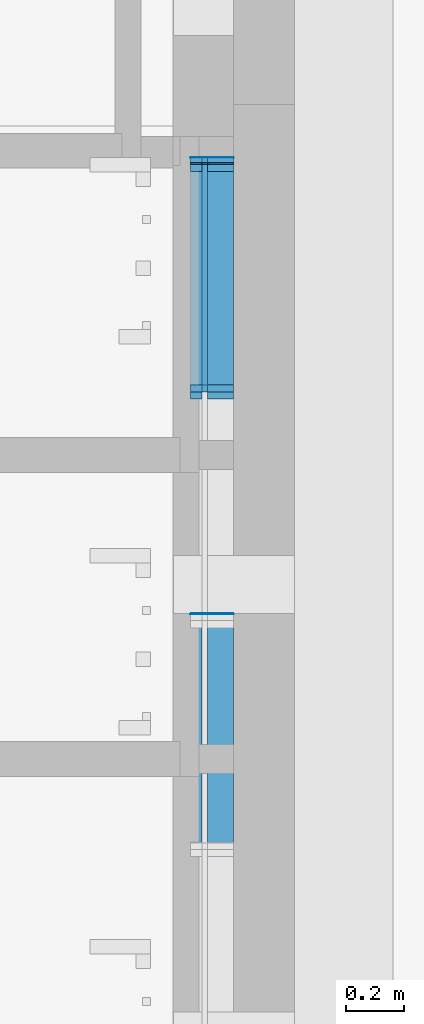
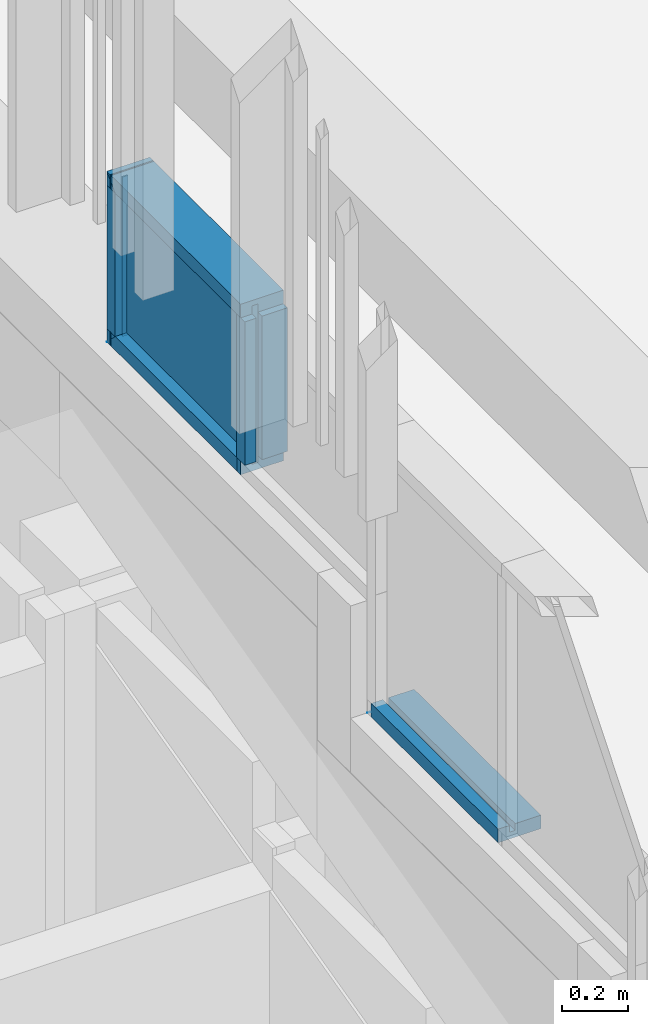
# One storey, part 62 of 390: 15 discrete accessories, 1 element without a shape of its own.
"""IFC2X3 building model written with IfcOpenShell, lengths in millimetres."""

from ifc_helpers import new_model, entity, si_unit, converted_unit, derived_unit, money_unit, direction, frame, origin_with_axes, place, context, subcontext, project, spatial, polyline, outline, extrude, clip, halfspace, material, material_list, type_object, element, aggregate, save


model = new_model("IFC2X3")

# Units and contexts
model_context = context("Model", 3, precision=1e-05, world=origin_with_axes(), true_north=direction((0.0, 1.0)))
body_context = subcontext(model_context, "Body", "Model", "MODEL_VIEW")
ifc_project = project(units=[si_unit("LENGTHUNIT", "METRE", prefix="MILLI"), si_unit("AREAUNIT", "SQUARE_METRE"), si_unit("VOLUMEUNIT", "CUBIC_METRE"), converted_unit("PLANEANGLEUNIT", "DEGREE", entity("IfcPlaneAngleMeasure", 0.0174532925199), si_unit("PLANEANGLEUNIT", "RADIAN"), dimensions=[0, 0, 0, 0, 0, 0, 0]), si_unit("SOLIDANGLEUNIT", "STERADIAN"), money_unit("EUR"), converted_unit("TIMEUNIT", "Year", entity("IfcTimeMeasure", 31556926.0), si_unit("TIMEUNIT", "SECOND"), dimensions=[0, 0, 1, 0, 0, 0, 0]), si_unit("MASSUNIT", "GRAM", prefix="KILO"), si_unit("THERMODYNAMICTEMPERATUREUNIT", "DEGREE_CELSIUS"), si_unit("LUMINOUSINTENSITYUNIT", "LUMEN"), si_unit("ENERGYUNIT", "JOULE", prefix="MEGA"), derived_unit("THERMALCONDUCTANCEUNIT", [(si_unit("POWERUNIT", "WATT"), 1), (si_unit("LENGTHUNIT", "METRE"), -1), (si_unit("THERMODYNAMICTEMPERATUREUNIT", "KELVIN"), -1)]), derived_unit("SPECIFICHEATCAPACITYUNIT", [(si_unit("ENERGYUNIT", "JOULE"), 1), (si_unit("MASSUNIT", "GRAM", prefix="KILO"), -1), (si_unit("THERMODYNAMICTEMPERATUREUNIT", "KELVIN"), -1)]), derived_unit("MASSDENSITYUNIT", [(si_unit("MASSUNIT", "GRAM", prefix="KILO"), 1), (si_unit("VOLUMEUNIT", "CUBIC_METRE"), -1)])], contexts=[model_context])

# Site, building, storey
site_placement = place(None, origin_with_axes())
site = spatial("IfcSite", under=ifc_project, at=site_placement, Name="Site", CompositionType="ELEMENT")
building_placement = place(site_placement, origin_with_axes())
building = spatial("IfcBuilding", under=site, at=building_placement, Name="Building", CompositionType="ELEMENT")
storey_placement = place(building_placement, origin_with_axes())
storey = spatial("IfcBuildingStorey", under=building, at=storey_placement, Name="1 korrus", CompositionType="ELEMENT", Elevation=0.0)

# Curtain wall, discrete accessories
curtain_wall_type = type_object("IfcCurtainWallType", Name="KLF-14", PredefinedType="NOTDEFINED")
curtain_wall_placement = place(storey_placement, frame((122599.999993, 59672.5295083, -0.000201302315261), z_axis=(0.0, 0.0, 1.0), x_axis=(1.0, 0.0, 0.0)))
curtain_wall = element("IfcCurtainWall", 1, at=curtain_wall_placement, inside=storey, type_object=curtain_wall_type, Name="Klaasfassaad")
ifc_material_1 = material(Name="Klaas")
discrete_accessory_type_1 = type_object("IfcDiscreteAccessoryType", Name="Distinct Panel 785 x 590 x 20")
discrete_accessory_1_placement = place(curtain_wall_placement, frame((-6.84792667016e-07, 4023.98422082, 4047.00000441), z_axis=(0.0, 0.0, 1.0), x_axis=(1.70170488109e-10, -1.0, 0.0)))
discrete_accessory_1 = element("IfcDiscreteAccessory", 2, at=discrete_accessory_1_placement, type_object=discrete_accessory_type_1, material=ifc_material_1, Name="KLF-14 klaaspakett", context=body_context, shape_type="SweptSolid", body=[
    extrude(outline(polyline([(-466.486277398, -357.999864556), (318.513733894, -357.999864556), (318.513733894, 231.99993721), (-466.486277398, 231.999901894), (-466.486277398, -357.999864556)])), frame((0.0, -10.0, 0.0), z_axis=(0.0, 1.0, 0.0), x_axis=(1.0, 0.0, 0.0)), (0.0, 0.0, 1.0), 20.0),
])
discrete_accessory_type_2 = type_object("IfcDiscreteAccessoryType", Name="Distinct Panel 5 x 590 x 20")
discrete_accessory_2_placement = place(curtain_wall_placement, frame((-7.66192442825e-07, 4502.32756236, 4064.99996958), z_axis=(0.0, 0.0, 1.0), x_axis=(1.70170488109e-10, -1.0, 0.0)))
discrete_accessory_2 = element("IfcDiscreteAccessory", 3, at=discrete_accessory_2_placement, type_object=discrete_accessory_type_2, material=ifc_material_1, Name="KLF-14 klaaspakett", context=body_context, shape_type="SweptSolid", body=[
    extrude(outline(polyline([(6.85714760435, -339.99989619), (11.8570669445, -339.99989619), (11.8570669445, 249.999861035), (6.85707250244, 249.999861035), (6.85714760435, -339.99989619)])), frame((0.0, -10.0000000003, 0.0), z_axis=(0.0, 1.0, 0.0), x_axis=(1.0, 0.0, 0.0)), (0.0, 0.0, 1.0), 20.0),
])
ifc_material_2 = material(Name="Aluminium MUST")
ifc_material_list_1 = material_list([ifc_material_2, ifc_material_2, ifc_material_2])
discrete_accessory_type_3 = type_object("IfcDiscreteAccessoryType", Name="50 x 150")
discrete_accessory_3_placement = place(curtain_wall_placement, frame((-6.30592467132e-07, 3705.4704897, 3795.00007467), z_axis=(-1.70011576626e-10, 0.999999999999, 1.62652031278e-06), x_axis=(0.0, -1.62652031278e-06, 0.999999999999)))
discrete_accessory_3 = element("IfcDiscreteAccessory", 4, at=discrete_accessory_3_placement, type_object=discrete_accessory_type_3, material=ifc_material_list_1, Name="KLF-14 profiil", context=body_context, shape_type="SweptSolid", body=[
    extrude(outline(polyline([(10.0000000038, -24.9999632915), (10.0000000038, 3.67084243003e-05), (-9.99999999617, 3.67084243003e-05), (-9.99999999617, -24.9999632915), (10.0000000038, -24.9999632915)])), frame((0.0, 0.0, -3.96598238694e-05), z_axis=(0.0, 0.0, 1.0), x_axis=(0.0, 1.0, 0.0)), (0.0, 0.0, 1.0), 22.5687651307),
    extrude(outline(polyline([(100.000000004, -49.9999632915), (100.000000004, 3.67084243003e-05), (10.0000000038, 3.67084243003e-05), (10.0000000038, -49.9999632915), (100.000000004, -49.9999632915)])), frame((0.0, 0.0, -3.96751147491e-05), z_axis=(0.0, 0.0, 1.0), x_axis=(0.0, 1.0, 0.0)), (0.0, 0.0, 1.0), 22.5688058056),
    extrude(outline(polyline([(-49.9999999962, 3.67084243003e-05), (-49.9999999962, -49.9999632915), (-9.99999999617, -49.9999632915), (-9.99999999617, 3.67084243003e-05), (-49.9999999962, 3.67084243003e-05)])), frame((0.0, 0.0, -3.96564132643e-05), z_axis=(0.0, 0.0, 1.0), x_axis=(0.0, 1.0, 0.0)), (0.0, 0.0, 1.0), 22.5688057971),
])
ifc_material_list_2 = material_list([ifc_material_2, ifc_material_2])
discrete_accessory_4_placement = place(curtain_wall_placement, frame((-6.30592467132e-07, 3705.4704897, 3795.00007467), z_axis=(0.0, 0.0, 1.0), x_axis=(1.7017948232e-10, -1.0, 0.0)))
discrete_accessory_4 = element("IfcDiscreteAccessory", 5, at=discrete_accessory_4_placement, type_object=discrete_accessory_type_3, material=ifc_material_list_2, Name="KLF-14 profiil", context=body_context, shape_type="SweptSolid", body=[
    extrude(outline(polyline([(100.000000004, -24.999999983), (99.9999999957, 25.000000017), (9.99999999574, 25.0000000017), (10.0000000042, -24.9999999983), (100.000000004, -24.999999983)])), frame((0.0, 0.0, 50.000000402), z_axis=(0.0, 0.0, 1.0), x_axis=(1.7017948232e-10, 1.0, 0.0)), (0.0, 0.0, 1.0), 529.99978724),
    extrude(outline(polyline([(-50.0000000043, 24.9999999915), (-49.9999999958, -25.0000000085), (-9.99999999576, -25.0000000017), (-10.0000000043, 24.9999999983), (-50.0000000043, 24.9999999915)])), frame((0.0, 0.0, 49.9999979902), z_axis=(0.0, 0.0, 1.0), x_axis=(1.7017948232e-10, 1.0, 0.0)), (0.0, 0.0, 1.0), 529.999789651),
])
discrete_accessory_5_placement = place(curtain_wall_placement, frame((-7.64174501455e-07, 4490.47049542, 4424.99986231), z_axis=(1.7016819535e-10, -1.0, 0.0), x_axis=(0.0, 0.0, -1.0)))
discrete_accessory_5 = element("IfcDiscreteAccessory", 6, at=discrete_accessory_5_placement, type_object=discrete_accessory_type_3, material=ifc_material_list_1, Name="KLF-14 profiil", context=body_context, shape_type="SweptSolid", body=[
    extrude(outline(polyline([(-9.99999986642, 25.0), (-9.99999986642, 0.0), (10.0000001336, 0.0), (10.0000001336, 25.0), (-9.99999986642, 25.0)])), frame((0.0, 0.0, -1.70530256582e-09), z_axis=(0.0, 0.0, 1.0), x_axis=(0.0, -1.0, 0.0)), (0.0, 0.0, 1.0), 785.000005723),
    extrude(outline(polyline([(-99.9999998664, 50.0), (-99.9999998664, 0.0), (-9.99999986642, 0.0), (-9.99999986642, 50.0), (-99.9999998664, 50.0)])), frame((0.0, 0.0, 1.67688085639e-09), z_axis=(0.0, 0.0, 1.0), x_axis=(0.0, -1.0, 0.0)), (0.0, 0.0, 1.0), 785.000005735),
    extrude(outline(polyline([(50.0000001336, 0.0), (50.0000001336, 50.0), (10.0000001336, 50.0), (10.0000001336, 0.0), (50.0000001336, 0.0)])), frame((0.0, 0.0, -8.51230197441e-09), z_axis=(0.0, 0.0, 1.0), x_axis=(0.0, -1.0, 0.0)), (0.0, 0.0, 1.0), 785.000005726),
])
discrete_accessory_6_placement = place(curtain_wall_placement, frame((-7.65027152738e-07, 4495.4704897, 4424.99986231), z_axis=(1.70530451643e-10, -1.0, 0.0), x_axis=(0.0, 0.0, -1.0)))
discrete_accessory_6 = element("IfcDiscreteAccessory", 7, at=discrete_accessory_6_placement, type_object=discrete_accessory_type_3, material=ifc_material_list_1, Name="KLF-14 profiil", context=body_context, shape_type="SweptSolid", body=[
    extrude(outline(polyline([(-9.99999999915, 25.0), (-9.99999999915, 0.0), (10.0000000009, 0.0), (10.0000000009, 25.0), (-9.99999999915, 25.0)])), frame((0.0, 0.0, -9.63069908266e-05), z_axis=(0.0, 0.0, 1.0), x_axis=(0.0, -1.0, 0.0)), (0.0, 0.0, 1.0), 5.00009058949),
    extrude(outline(polyline([(-99.9999999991, 50.0), (-99.9999999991, 0.0), (-9.99999999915, 0.0), (-9.99999999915, 50.0), (-99.9999999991, 50.0)])), frame((0.0, 0.0, -9.63035802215e-05), z_axis=(0.0, 0.0, 1.0), x_axis=(0.0, -1.0, 0.0)), (0.0, 0.0, 1.0), 5.00009060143),
    extrude(outline(polyline([(50.0000000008, 0.0), (50.0000000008, 50.0), (10.0000000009, 50.0), (10.0000000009, 0.0), (50.0000000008, 0.0)])), frame((0.0, 0.0, -9.63138120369e-05), z_axis=(0.0, 0.0, 1.0), x_axis=(0.0, -1.0, 0.0)), (0.0, 0.0, 1.0), 5.0000905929),
])
discrete_accessory_7_placement = place(curtain_wall_placement, frame((-7.64174501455e-07, 4490.47049542, 3795.00011138), z_axis=(-1.70530451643e-10, 1.0, 0.0), x_axis=(0.0, 0.0, 1.0)))
discrete_accessory_7 = element("IfcDiscreteAccessory", 8, at=discrete_accessory_7_placement, type_object=discrete_accessory_type_3, material=ifc_material_list_1, Name="KLF-14 profiil", context=body_context, shape_type="SweptSolid", body=[
    extrude(outline(polyline([(10.0000000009, -25.0), (10.0000000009, 0.0), (-9.99999999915, 0.0), (-9.99999999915, -25.0), (10.0000000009, -25.0)])), frame((0.0, 0.0, -1.73372427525e-09), z_axis=(0.0, 0.0, 1.0), x_axis=(0.0, 1.0, 0.0)), (0.0, 0.0, 1.0), 4.9999942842),
    extrude(outline(polyline([(100.000000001, -50.0), (100.000000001, 0.0), (10.0000000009, 0.0), (10.0000000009, -50.0), (100.000000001, -50.0)])), frame((0.0, 0.0, -1.70814473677e-08), z_axis=(0.0, 0.0, 1.0), x_axis=(0.0, 1.0, 0.0)), (0.0, 0.0, 1.0), 4.99999429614),
    extrude(outline(polyline([(-49.9999999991, 0.0), (-49.9999999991, -50.0), (-9.99999999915, -50.0), (-9.99999999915, 0.0), (-49.9999999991, 0.0)])), frame((0.0, 0.0, 1.67688085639e-09), z_axis=(0.0, 0.0, 1.0), x_axis=(0.0, 1.0, 0.0)), (0.0, 0.0, 1.0), 4.99999428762),
])
discrete_accessory_8_placement = place(curtain_wall_placement, frame((-3.65574237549e-07, 2148.18290156, 3380.00000683), z_axis=(-1.70170005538e-10, 1.0, 0.0), x_axis=(0.0, 0.0, 1.0)))
discrete_accessory_8 = element("IfcDiscreteAccessory", 9, at=discrete_accessory_8_placement, type_object=discrete_accessory_type_3, material=ifc_material_list_1, Name="KLF-14 profiil", context=body_context, shape_type="SweptSolid", body=[
    extrude(outline(polyline([(10.0000001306, -25.0), (10.0000001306, 0.0), (-9.99999986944, 0.0), (-9.99999986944, -25.0), (10.0000001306, -25.0)])), frame((0.0, 0.0, -9.57492432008e-05), z_axis=(0.0, 0.0, 1.0), x_axis=(0.0, 1.0, 0.0)), (0.0, 0.0, 1.0), 767.28768389),
    extrude(outline(polyline([(100.000000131, -50.0), (100.000000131, 0.0), (10.0000001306, 0.0), (10.0000001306, -50.0), (100.000000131, -50.0)])), frame((0.0, 0.0, -9.57645482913e-05), z_axis=(0.0, 0.0, 1.0), x_axis=(0.0, 1.0, 0.0)), (0.0, 0.0, 1.0), 767.287683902),
    extrude(outline(polyline([(-49.9999998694, 0.0), (-49.9999998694, -50.0), (-9.99999986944, -50.0), (-9.99999986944, 0.0), (-49.9999998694, 0.0)])), frame((0.0, 0.0, -9.57458325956e-05), z_axis=(0.0, 0.0, 1.0), x_axis=(0.0, 1.0, 0.0)), (0.0, 0.0, 1.0), 767.287683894),
])
discrete_accessory_9_placement = place(curtain_wall_placement, frame((-7.65027152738e-07, 4495.4704897, 3795.00011138), z_axis=(-1.70531178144e-10, 1.0, 0.0), x_axis=(0.0, 0.0, 1.0)))
discrete_accessory_9 = element("IfcDiscreteAccessory", 10, at=discrete_accessory_9_placement, type_object=discrete_accessory_type_3, material=ifc_material_list_1, Name="KLF-14 profiil", context=body_context, shape_type="SweptSolid", body=[
    extrude(outline(polyline([(10.0000000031, -25.0), (10.0000000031, 0.0), (-9.99999999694, 0.0), (-9.99999999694, -25.0), (10.0000000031, -25.0)])), frame((0.0, 0.0, -1.70530256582e-09), z_axis=(0.0, 0.0, 1.0), x_axis=(0.0, 1.0, 0.0)), (0.0, 0.0, 1.0), 18.0020073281),
    extrude(outline(polyline([(100.000000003, -50.0), (100.000000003, 0.0), (10.0000000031, 0.0), (10.0000000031, -50.0), (100.000000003, -50.0)])), frame((0.0, 0.0, -1.70530256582e-08), z_axis=(0.0, 0.0, 1.0), x_axis=(0.0, 1.0, 0.0)), (0.0, 0.0, 1.0), 18.0020073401),
    extrude(outline(polyline([(-49.9999999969, 0.0), (-49.9999999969, -50.0), (-9.99999999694, -50.0), (-9.99999999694, 0.0), (-49.9999999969, 0.0)])), frame((0.0, 0.0, 1.70530256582e-09), z_axis=(0.0, 0.0, 1.0), x_axis=(0.0, 1.0, 0.0)), (0.0, 0.0, 1.0), 18.0020073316),
])
discrete_accessory_10_placement = place(curtain_wall_placement, frame((-6.34429397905e-07, 3728.03913384, 3795.00011138), z_axis=(-1.70172831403e-10, 1.0, 0.0), x_axis=(0.0, 0.0, 1.0)))
discrete_accessory_10 = element("IfcDiscreteAccessory", 11, at=discrete_accessory_10_placement, type_object=discrete_accessory_type_3, material=ifc_material_list_1, Name="KLF-14 profiil", context=body_context, shape_type="SweptSolid", body=[
    extrude(outline(polyline([(10.0000001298, -25.0), (10.0000001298, 0.0), (-9.99999987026, 0.0), (-9.99999987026, -25.0), (10.0000001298, -25.0)])), frame((0.0, 0.0, -4.06647089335e-05), z_axis=(0.0, 0.0, 1.0), x_axis=(0.0, 1.0, 0.0)), (0.0, 0.0, 1.0), 762.431402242),
    extrude(outline(polyline([(100.00000013, -50.0), (100.00000013, 0.0), (10.0000001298, 0.0), (10.0000001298, -50.0), (100.00000013, -50.0)])), frame((0.0, 0.0, -4.06800282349e-05), z_axis=(0.0, 0.0, 1.0), x_axis=(0.0, 1.0, 0.0)), (0.0, 0.0, 1.0), 762.431402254),
    extrude(outline(polyline([(-49.9999998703, 0.0), (-49.9999998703, -50.0), (-9.99999987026, -50.0), (-9.99999987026, 0.0), (-49.9999998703, 0.0)])), frame((0.0, 0.0, -4.06612983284e-05), z_axis=(0.0, 0.0, 1.0), x_axis=(0.0, 1.0, 0.0)), (0.0, 0.0, 1.0), 762.431402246),
])
discrete_accessory_11_placement = place(curtain_wall_placement, frame((-7.64174501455e-07, 4490.47049542, 3795.00011138), z_axis=(0.0, 0.0, 1.0), x_axis=(1.70170488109e-10, -1.0, 0.0)))
discrete_accessory_11 = element("IfcDiscreteAccessory", 12, at=discrete_accessory_11_placement, type_object=discrete_accessory_type_3, material=ifc_material_list_2, Name="KLF-14 profiil", context=body_context, shape_type="SweptSolid", body=[
    extrude(outline(polyline([(100.000000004, -24.999999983), (99.9999999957, 25.000000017), (9.99999999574, 25.0000000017), (10.0000000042, -24.9999999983), (100.000000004, -24.999999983)])), frame((0.0, 0.0, 50.0), z_axis=(0.0, 0.0, 1.0), x_axis=(1.70170488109e-10, 1.0, 0.0)), (0.0, 0.0, 1.0), 529.999750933),
    extrude(outline(polyline([(-50.0000000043, 24.9999999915), (-49.9999999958, -25.0000000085), (-9.99999999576, -25.0000000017), (-10.0000000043, 24.9999999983), (-50.0000000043, 24.9999999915)])), frame((0.0, 0.0, 50.0), z_axis=(0.0, 0.0, 1.0), x_axis=(1.70170488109e-10, 1.0, 0.0)), (0.0, 0.0, 1.0), 529.999750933),
])
discrete_accessory_12_placement = place(curtain_wall_placement, frame((-7.6843775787e-07, 4515.47028694, 4424.99978527), z_axis=(1.7053198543e-10, -0.999999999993, 3.85221163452e-06), x_axis=(0.0, -3.85221163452e-06, -0.999999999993)))
discrete_accessory_12 = element("IfcDiscreteAccessory", 13, at=discrete_accessory_12_placement, type_object=discrete_accessory_type_3, material=ifc_material_list_1, Name="KLF-14 profiil", context=body_context, shape_type="Clipping", body=[
    clip(extrude(outline(polyline([(10.0000000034, 20.0000476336), (-9.99999999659, 20.0000476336), (-9.99999999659, 7.70438211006e-05), (10.0000000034, 7.70438211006e-05), (10.0000000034, 20.0000476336)])), frame((0.0, 0.0, -1.70530256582e-09), z_axis=(0.0, 0.0, 1.0), x_axis=(0.0, -1.0, 0.0)), (0.0, 0.0, 1.0), 19.9998935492), halfspace(frame((0.0, 0.0, 0.0), z_axis=(-0.707102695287, -1.2058378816e-10, 0.707110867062), x_axis=(0.0, -1.0, -1.70530243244e-10)), True)),
    clip(extrude(outline(polyline([(-9.99999999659, 20.0000476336), (-99.9999999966, 20.0000476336), (-99.9999999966, 7.70438219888e-05), (-9.99999999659, 7.70438211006e-05), (-9.99999999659, 20.0000476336)])), frame((0.0, 0.0, 1.70530256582e-09), z_axis=(0.0, 0.0, 1.0), x_axis=(0.0, -1.0, 0.0)), (0.0, 0.0, 1.0), 19.9998935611), halfspace(frame((0.0, 0.0, 0.0), z_axis=(-0.707102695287, -1.20583798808e-10, 0.707110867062), x_axis=(0.0, -1.0, -1.70530258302e-10)), True)),
    clip(extrude(outline(polyline([(50.0000000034, 7.70438211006e-05), (50.0000000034, 20.0000476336), (10.0000000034, 20.0000476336), (10.0000000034, 7.70438211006e-05), (50.0000000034, 7.70438211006e-05)])), frame((0.0, 0.0, -8.52651282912e-09), z_axis=(0.0, 0.0, 1.0), x_axis=(0.0, -1.0, 0.0)), (0.0, 0.0, 1.0), 19.9998935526), halfspace(frame((0.0, 0.0, 0.0), z_axis=(-0.707102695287, -1.20583797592e-10, 0.707110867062), x_axis=(0.0, -1.0, -1.70530256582e-10)), True)),
])
discrete_accessory_13_placement = place(curtain_wall_placement, frame((-7.6843775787e-07, 4515.47028694, 3794.99994302), z_axis=(0.0, 0.0, 1.0), x_axis=(1.70170488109e-10, -1.0, 0.0)))
discrete_accessory_13 = element("IfcDiscreteAccessory", 14, at=discrete_accessory_13_placement, type_object=discrete_accessory_type_3, material=ifc_material_list_1, Name="KLF-14 profiil", context=body_context, shape_type="Clipping", body=[
    clip(clip(extrude(outline(polyline([(10.0000000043, -24.9999999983), (10.0, 1.70530256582e-09), (-10.0, -1.70530256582e-09), (-9.99999999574, -25.0000000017), (10.0000000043, -24.9999999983)])), frame((0.0, 0.0, 0.0), z_axis=(0.0, 0.0, 1.0), x_axis=(1.70170488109e-10, 1.0, 0.0)), (0.0, 0.0, 1.0), 629.999842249), halfspace(frame((0.0, 0.0, 0.0), z_axis=(-0.707136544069, 0.0, 0.707077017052), x_axis=(0.0, -1.0, 0.0)), True)), halfspace(frame((314.999921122, 0.0, 315.001134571), z_axis=(-0.707105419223, 0.0, -0.707108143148), x_axis=(0.0, 1.0, 0.0)), True)),
    clip(clip(extrude(outline(polyline([(100.000000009, -49.999999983), (100.0, 1.69961822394e-08), (10.0, 1.70530256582e-09), (10.0000000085, -49.9999999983), (100.000000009, -49.999999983)])), frame((0.0, 0.0, 0.0), z_axis=(0.0, 0.0, 1.0), x_axis=(1.70170488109e-10, 1.0, 0.0)), (0.0, 0.0, 1.0), 629.999842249), halfspace(frame((0.0, 0.0, 0.0), z_axis=(-0.707136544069, 0.0, 0.707077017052), x_axis=(0.0, -1.0, 0.0)), True)), halfspace(frame((314.999921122, 0.0, 315.001134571), z_axis=(-0.707105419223, 0.0, -0.707108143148), x_axis=(0.0, 1.0, 0.0)), True)),
    clip(clip(extrude(outline(polyline([(-50.0, -8.51230197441e-09), (-49.9999999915, -50.0000000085), (-9.99999999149, -50.0000000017), (-10.0, -1.70530256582e-09), (-50.0, -8.51230197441e-09)])), frame((0.0, 0.0, 0.0), z_axis=(0.0, 0.0, 1.0), x_axis=(1.70170488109e-10, 1.0, 0.0)), (0.0, 0.0, 1.0), 629.999842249), halfspace(frame((0.0, 0.0, 0.0), z_axis=(-0.707136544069, 0.0, 0.707077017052), x_axis=(0.0, -1.0, 0.0)), True)), halfspace(frame((314.999921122, 1.1539443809e-10, 315.001134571), z_axis=(-0.707105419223, 0.0, -0.707108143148), x_axis=(0.0, 1.0, 0.0)), True)),
])
discrete_accessory_14_placement = place(curtain_wall_placement, frame((-4.99980501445e-07, 2938.0390773, 3380.00000683), z_axis=(-1.70523119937e-10, 0.999999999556, 2.97905693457e-05), x_axis=(0.0, -2.97905693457e-05, 0.999999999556)))
discrete_accessory_14 = element("IfcDiscreteAccessory", 15, at=discrete_accessory_14_placement, type_object=discrete_accessory_type_3, material=ifc_material_list_1, Name="KLF-14 profiil", context=body_context, shape_type="Clipping", body=[
    clip(extrude(outline(polyline([(-10.0, -2.00088807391), (10.0, -2.00088807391), (10.0000000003, 0.0), (-9.99999999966, 0.0), (-10.0, -2.00088807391)])), frame((0.0, 0.0, -0.000744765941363), z_axis=(0.0, 0.0, 1.0), x_axis=(0.0, 1.0, 0.0)), (0.0, 0.0, 1.0), 2.00082847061), halfspace(frame((1.00004185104, 1.70542473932e-10, 1.0000716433), z_axis=(-0.707096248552, -1.20584896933e-10, -0.707117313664), x_axis=(0.0, 1.0, -1.70530256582e-10)), True)),
    clip(extrude(outline(polyline([(10.0, -2.00088807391), (100.0, -2.00088807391), (100.0, 0.0), (10.0000000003, 0.0), (10.0, -2.00088807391)])), frame((0.0, 0.0, -0.000744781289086), z_axis=(0.0, 0.0, 1.0), x_axis=(0.0, 1.0, 0.0)), (0.0, 0.0, 1.0), 2.00082848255), halfspace(frame((1.00004185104, 1.70537539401e-10, 1.0000716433), z_axis=(-0.707096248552, -1.20581407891e-10, -0.707117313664), x_axis=(0.0, 1.0, -1.70525322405e-10)), True)),
    clip(extrude(outline(polyline([(-10.0, -2.00088807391), (-9.99999999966, 0.0), (-49.9999999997, 0.0), (-50.0, -2.00088807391), (-10.0, -2.00088807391)])), frame((0.0, 0.0, -0.000744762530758), z_axis=(0.0, 0.0, 1.0), x_axis=(0.0, 1.0, 0.0)), (0.0, 0.0, 1.0), 2.00082847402), halfspace(frame((1.00004185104, 1.70531370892e-10, 1.0000716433), z_axis=(-0.707096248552, -1.20577046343e-10, -0.707117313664), x_axis=(0.0, 1.0, -1.70519154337e-10)), True)),
])
discrete_accessory_15_placement = place(curtain_wall_placement, frame((-7.68096697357e-07, 4513.47039243, 3795.00011138), z_axis=(-1.70539250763e-10, 0.999999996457, -8.41839147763e-05), x_axis=(0.0, 8.41839147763e-05, 0.999999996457)))
discrete_accessory_15 = element("IfcDiscreteAccessory", 16, at=discrete_accessory_15_placement, type_object=discrete_accessory_type_3, material=ifc_material_list_1, Name="KLF-14 profiil", context=body_context, shape_type="Clipping", body=[
    clip(extrude(outline(polyline([(-10.0, -2.00183058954), (10.0, -2.00183058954), (10.0000000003, 0.0), (-9.99999999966, 0.0), (-10.0, -2.00183058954)])), frame((0.0, 0.0, -0.00210459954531), z_axis=(0.0, 0.0, 1.0), x_axis=(0.0, 1.0, 0.0)), (0.0, 0.0, 1.0), 2.00199912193), halfspace(frame((0.999947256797, 1.70518009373e-10, 0.999863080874), z_axis=(-0.707136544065, -1.20585875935e-10, -0.707077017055), x_axis=(0.0, 1.0, -1.70541359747e-10)), True)),
    clip(extrude(outline(polyline([(10.0, -2.00183058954), (100.0, -2.00183058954), (100.0, 0.0), (10.0000000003, 0.0), (10.0, -2.00183058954)])), frame((0.0, 0.0, -0.00210461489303), z_axis=(0.0, 0.0, 1.0), x_axis=(0.0, 1.0, 0.0)), (0.0, 0.0, 1.0), 2.00199913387), halfspace(frame((0.999947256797, 1.70521709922e-10, 0.999863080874), z_axis=(-0.707136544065, -1.20588492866e-10, -0.707077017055), x_axis=(0.0, 1.0, -1.70545060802e-10)), True)),
    clip(extrude(outline(polyline([(-10.0, -2.00183058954), (-9.99999999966, 0.0), (-49.9999999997, 0.0), (-50.0, -2.00183058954), (-10.0, -2.00183058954)])), frame((0.0, 0.0, -0.0021045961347), z_axis=(0.0, 0.0, 1.0), x_axis=(0.0, 1.0, 0.0)), (0.0, 0.0, 1.0), 2.00199912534), halfspace(frame((0.999947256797, 1.70523561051e-10, 0.999863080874), z_axis=(-0.707136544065, -1.20589801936e-10, -0.707077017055), x_axis=(0.0, 1.0, -1.70546912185e-10)), True)),
])
aggregate(curtain_wall, [discrete_accessory_1, discrete_accessory_2, discrete_accessory_3, discrete_accessory_4, discrete_accessory_5, discrete_accessory_6, discrete_accessory_7, discrete_accessory_8, discrete_accessory_9, discrete_accessory_10, discrete_accessory_11, discrete_accessory_12, discrete_accessory_13, discrete_accessory_14, discrete_accessory_15])

save(model, "model.ifc")
